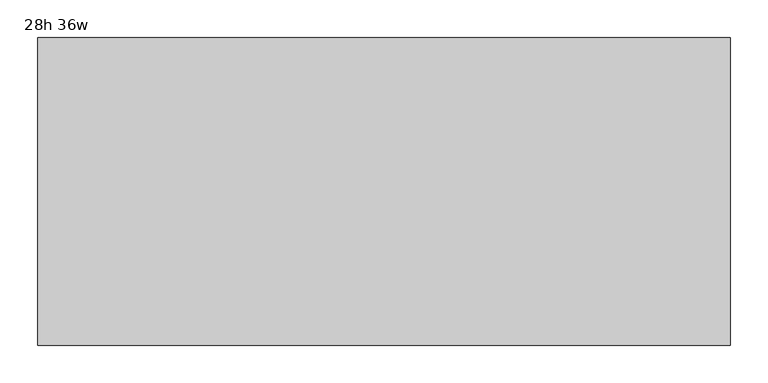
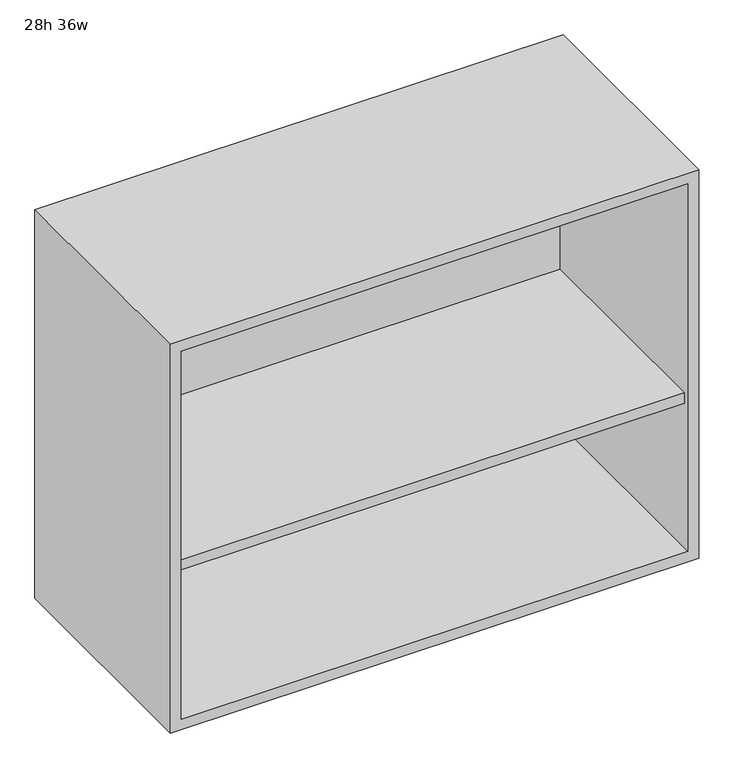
"""IFC4 building model written with IfcOpenShell, lengths in millimetres: furniture geometry, Haworth_BeHold_StackOnBookcase : 28h 36w."""

import ifcopenshell
import ifcopenshell.guid

model = None  # the IFC model being written
_history = None  # IfcOwnerHistory: only IFC2X3 demands one
_inside = {}  # id of a spatial element -> (the spatial element, [elements in it])
_under = {}  # id of a project, library or spatial element -> (it, [spatial elements below it])
_declared = {}  # id of a project -> (the project, [libraries it declares])
_typed = {}  # id of a type object -> (the type object, [elements of that type])
_made_of = {}  # id of a material, layer set ... -> (it, [elements and type objects made of it])


def new_model(schema):
    """Start an empty IFC model of exactly this schema.

    Asked for "IFC4X3", IfcOpenShell would pick the latest addendum, in which some entities
    have other attributes; the version numbers below select the first issue.
    IFC2X3 requires an IfcOwnerHistory on every rooted entity: one is made here for all.
    """
    global model, _history
    if schema == "IFC4X3":
        model = ifcopenshell.file(schema_version=(4, 3, 0, 0))
    else:
        model = ifcopenshell.file(schema=schema)
    _inside.clear()
    _under.clear()
    _declared.clear()
    _typed.clear()
    _made_of.clear()
    _history = None
    if model.schema == "IFC2X3":
        org = make("IfcOrganization", Name="unknown")
        user = make(
            "IfcPersonAndOrganization",
            ThePerson=make("IfcPerson", FamilyName="unknown"),
            TheOrganization=org,
        )
        app = make(
            "IfcApplication",
            ApplicationDeveloper=org,
            Version="unknown",
            ApplicationFullName="unknown",
            ApplicationIdentifier="unknown",
        )
        _history = make(
            "IfcOwnerHistory",
            OwningUser=user,
            OwningApplication=app,
            ChangeAction="ADDED",
            CreationDate=0,
        )
    return model


def make(cls, **values):
    """One entity of the class cls with the attributes given. An attribute that is None is left unset."""
    return model.create_entity(
        cls, **{name: value for name, value in values.items() if value is not None}
    )


def rooted(cls, **values):
    """An entity with a GlobalId (a new one), such as an element, a storey or a relation."""
    return make(cls, GlobalId=ifcopenshell.guid.new(), OwnerHistory=_history, **values)


def si_unit(unit_type, name, prefix=None):
    """IfcSIUnit, for example si_unit("LENGTHUNIT", "METRE", prefix="MILLI")."""
    return make("IfcSIUnit", UnitType=unit_type, Prefix=prefix, Name=name)


def assignment(units):
    """IfcUnitAssignment: the units of a project."""
    return None if units is None else make("IfcUnitAssignment", Units=units)


def point(xyz):
    """IfcCartesianPoint."""
    return None if xyz is None else make("IfcCartesianPoint", Coordinates=xyz)


def direction(xyz):
    """IfcDirection."""
    return None if xyz is None else make("IfcDirection", DirectionRatios=xyz)


def frame(location, z_axis=None, x_axis=None):
    """IfcAxis2Placement3D, a coordinate frame: its origin and axes. An axis left out is left unset."""
    return make(
        "IfcAxis2Placement3D",
        Location=point(location),
        Axis=direction(z_axis),
        RefDirection=direction(x_axis),
    )


def origin():
    """The frame at (0, 0, 0) with its axes left unset."""
    return frame((0.0, 0.0, 0.0))


def place(relative_to, where):
    """IfcLocalPlacement: puts the frame where relative to a parent placement (None: the world)."""
    return make(
        "IfcLocalPlacement", PlacementRelTo=relative_to, RelativePlacement=where
    )


def context(
    kind, dimensions, precision=None, world=None, true_north=None, identifier=None
):
    """IfcGeometricRepresentationContext, for example the 3D "Model" context."""
    return make(
        "IfcGeometricRepresentationContext",
        ContextIdentifier=identifier,
        ContextType=kind,
        CoordinateSpaceDimension=dimensions,
        Precision=precision,
        WorldCoordinateSystem=world,
        TrueNorth=true_north,
    )


def project(units=None, contexts=None):
    """IfcProject with its units and contexts."""
    return rooted(
        "IfcProject",
        Name="project",
        RepresentationContexts=contexts,
        UnitsInContext=assignment(units),
    )


def spatial(cls, under=None, at=None, **own):
    """A site, building, storey or space (cls), placed at a placement, below another one or the project."""
    s = rooted(cls, ObjectPlacement=at, **own)
    if under is not None:
        _under.setdefault(under.id(), (under, []))[1].append(s)
    return s


def polyline(points):
    """IfcPolyline through the points."""
    return make("IfcPolyline", Points=[point(p) for p in points])


def outline(outer, holes=None, kind="AREA"):
    """IfcArbitraryClosedProfileDef: a profile drawn as a closed curve; with holes, ...WithVoids."""
    if holes is None:
        return make("IfcArbitraryClosedProfileDef", ProfileType=kind, OuterCurve=outer)
    return make(
        "IfcArbitraryProfileDefWithVoids",
        ProfileType=kind,
        OuterCurve=outer,
        InnerCurves=holes,
    )


def extrude(swept, where, along, depth):
    """IfcExtrudedAreaSolid: the profile swept, set in the frame where, extruded along a direction by depth."""
    return make(
        "IfcExtrudedAreaSolid",
        SweptArea=swept,
        Position=where,
        ExtrudedDirection=direction(along),
        Depth=depth,
    )


def faces_of(points, faces, orient=None, outer=None):
    """IfcFace entities. A face is a list of loops; a loop is a list of indices into points, from 0.

    orient and outer hold one flag for each loop. By default every Orientation is true, the
    first loop of a face is its IfcFaceOuterBound and the others are IfcFaceBound.
    """
    made = []
    for i, loops in enumerate(faces):
        bounds = []
        for j, loop in enumerate(loops):
            is_outer = j == 0 if outer is None else outer[i][j]
            bounds.append(
                make(
                    "IfcFaceOuterBound" if is_outer else "IfcFaceBound",
                    Bound=make("IfcPolyLoop", Polygon=[points[k] for k in loop]),
                    Orientation=True if orient is None else orient[i][j],
                )
            )
        made.append(make("IfcFace", Bounds=bounds))
    return made


def faceted_brep(points, faces, orient=None, outer=None, voids=None):
    """IfcFacetedBrep: a solid bounded by flat faces; with voids (closed shells), ...WithVoids."""
    shared = [point(p) for p in points]
    hull = make("IfcClosedShell", CfsFaces=faces_of(shared, faces, orient, outer))
    if voids is None:
        return make("IfcFacetedBrep", Outer=hull)
    return make(
        "IfcFacetedBrepWithVoids",
        Outer=hull,
        Voids=[
            make(cls, CfsFaces=faces_of(shared, fs, o, b)) for cls, fs, o, b in voids
        ],
    )


def shape(context_of_items, identifier, shape_type, items):
    """IfcShapeRepresentation: the items that make up one representation, for example the "Body"."""
    return make(
        "IfcShapeRepresentation",
        ContextOfItems=context_of_items,
        RepresentationIdentifier=identifier,
        RepresentationType=shape_type,
        Items=items,
    )


def source(mapping_origin, context_of_items, identifier, shape_type, items):
    """IfcRepresentationMap: a shape defined once, which mapped items show again and again."""
    return make(
        "IfcRepresentationMap",
        MappingOrigin=mapping_origin,
        MappedRepresentation=shape(context_of_items, identifier, shape_type, items),
    )


def transform(
    local_origin,
    x_axis=None,
    y_axis=None,
    z_axis=None,
    scale=None,
    scale2=None,
    scale3=None,
    uniform=True,
):
    """IfcCartesianTransformationOperator3D, or its non-uniform kind. x_axis, y_axis, z_axis: its Axis1, 2, 3."""
    if uniform:
        return make(
            "IfcCartesianTransformationOperator3D",
            Axis1=direction(x_axis),
            Axis2=direction(y_axis),
            LocalOrigin=point(local_origin),
            Scale=scale,
            Axis3=direction(z_axis),
        )
    return make(
        "IfcCartesianTransformationOperator3DnonUniform",
        Axis1=direction(x_axis),
        Axis2=direction(y_axis),
        LocalOrigin=point(local_origin),
        Scale=scale,
        Axis3=direction(z_axis),
        Scale2=scale2,
        Scale3=scale3,
    )


def mapped(mapping_source, mapping_target):
    """IfcMappedItem: shows the shape of a source again, moved by a transform."""
    return make(
        "IfcMappedItem", MappingSource=mapping_source, MappingTarget=mapping_target
    )


def made_of(thing, what):
    """Note that an element or type object is made of a material, layer set ...; save() writes the relation."""
    if what is not None:
        _made_of.setdefault(what.id(), (what, []))[1].append(thing)
    return thing


def element(
    cls,
    number,
    at=None,
    inside=None,
    cuts=None,
    type_object=None,
    material=None,
    context=None,
    identifier="Body",
    shape_type=None,
    held_by="IfcProductDefinitionShape",
    body=None,
    shapes=None,
    **own,
):
    """One element of the class cls, such as IfcWall. Its Tag is "e" and its number.

    at: its placement. inside: the storey or other place that contains it. cuts: it is an
    opening in that element (IfcRelVoidsElement). A single representation is given by context,
    identifier, shape_type and body (its items); several are given by shapes. held_by: the class
    of the entity that holds the representations. save() writes the other relations.
    """
    e = rooted(cls, Tag="e%d" % number, ObjectPlacement=at, **own)
    if body is not None:
        shapes = [shape(context, identifier, shape_type, body)]
    if shapes is not None:
        e.Representation = make(held_by, Representations=shapes)
    if inside is not None:
        _inside.setdefault(inside.id(), (inside, []))[1].append(e)
    if cuts is not None:
        rooted(
            "IfcRelVoidsElement", RelatingBuildingElement=cuts, RelatedOpeningElement=e
        )
    if type_object is not None:
        _typed.setdefault(type_object.id(), (type_object, []))[1].append(e)
    return made_of(e, material)


def aggregate(whole, parts):
    """IfcRelAggregates: a whole, such as a stair, and the parts it consists of."""
    return rooted("IfcRelAggregates", RelatingObject=whole, RelatedObjects=parts)


def save(model, path):
    """Write the relations noted so far, then the file.

    IfcRelAggregates (storeys below a building ...), IfcRelContainedInSpatialStructure (elements
    in a storey), IfcRelDefinesByType, IfcRelAssociatesMaterial and IfcRelDeclares: one each for
    every whole, place, type object, material and project.
    """
    for whole, parts in _under.values():
        aggregate(whole, parts)
    for where, things in _inside.values():
        rooted(
            "IfcRelContainedInSpatialStructure",
            RelatedElements=things,
            RelatingStructure=where,
        )
    for kind, things in _typed.values():
        rooted("IfcRelDefinesByType", RelatedObjects=things, RelatingType=kind)
    for what, things in _made_of.values():
        rooted("IfcRelAssociatesMaterial", RelatedObjects=things, RelatingMaterial=what)
    for by, libraries in _declared.values():
        rooted("IfcRelDeclares", RelatingContext=by, RelatedDefinitions=libraries)
    model.write(path)


def furniture_28h_36w_6ba45165(model_context):
    return source(origin(), model_context, "Body", "SolidModel", [
        extrude(outline(polyline([(281.2908447, -98.425), (281.2908447, -485.775), (-595.0091553, -485.775), (-595.0091553, -98.425), (281.2908447, -98.425)])), frame((0.0, 0.0, 843.026), z_axis=(0.0, 0.0, 1.0), x_axis=(1.0, 0.0, 0.0)), (0.0, 0.0, 1.0), 19.05),
        faceted_brep([(-595.0091553, -495.3, 577.85), (281.2908447, -495.3, 577.85), (281.2908447, -112.7125, 577.85), (-595.0091553, -112.7125, 577.85), (-614.0591553, -88.9, 558.8), (-595.0091553, -88.9, 558.8), (-595.0091553, -93.6625, 558.8), (281.2908447, -93.6625, 558.8), (281.2908447, -88.9, 558.8), (300.3408447, -88.9, 558.8), (300.3408447, -495.3, 558.8), (-614.0591553, -495.3, 558.8), (-595.0091553, -93.6625, 1250.95), (281.2908447, -93.6625, 1250.95), (-614.0591553, -495.3, 1270.0), (-614.0591553, -88.9, 1270.0), (300.3408447, -495.3, 1270.0), (-595.0091553, -495.3, 1250.95), (281.2908447, -495.3, 1250.95), (300.3408447, -88.9, 1270.0), (281.2908447, -88.9, 1250.95), (-595.0091553, -88.9, 1250.95), (-595.0091553, -112.7125, 1250.95), (281.2908447, -112.7125, 1250.95)], [[[0, 1, 2, 3]], [[4, 5, 6, 7, 8, 9, 10, 11]], [[7, 6, 12, 13]], [[14, 15, 4, 11]], [[14, 11, 10, 16], [0, 17, 18, 1]], [[19, 16, 10, 9]], [[15, 14, 16, 19]], [[15, 19, 9, 8, 20, 21, 5, 4]], [[0, 3, 22, 17]], [[6, 5, 21, 12]], [[2, 1, 18, 23]], [[8, 7, 13, 20]], [[3, 2, 23, 22]], [[18, 17, 22, 23]], [[21, 20, 13, 12]]]),
    ])


if __name__ == "__main__":
    model = new_model("IFC4")
    model_context = context("Model", 3, world=origin())
    ifc_project = project(units=[si_unit("LENGTHUNIT", "METRE", prefix="MILLI")], contexts=[model_context])
    site = spatial("IfcSite", under=ifc_project)
    building = spatial("IfcBuilding", under=site)
    placement = place(None, origin())
    furniture_28h_36w_shape = furniture_28h_36w_6ba45165(model_context)
    element("IfcFurniture", 1, ObjectType="Haworth_BeHold_StackOnBookcase : 28h 36w", at=placement, inside=building, context=model_context, shape_type="MappedRepresentation", body=[
        mapped(furniture_28h_36w_shape, transform((0.0, 0.0, 0.0), x_axis=(1.0, 0.0, 0.0), y_axis=(0.0, 1.0, 0.0), z_axis=(0.0, 0.0, 1.0))),
    ])
    save(model, "model.ifc")
